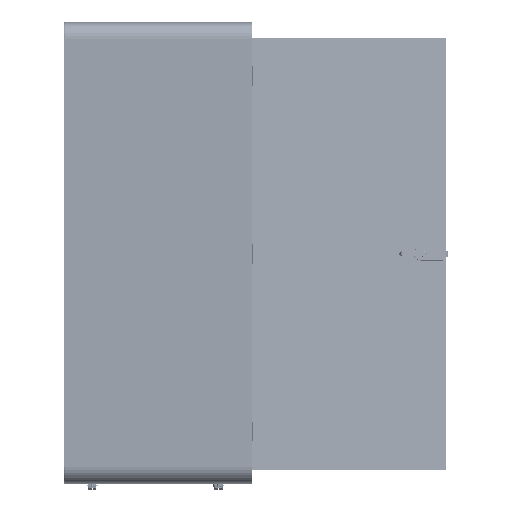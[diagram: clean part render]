
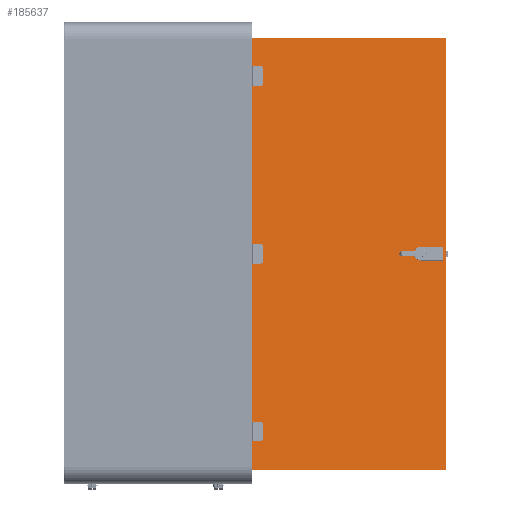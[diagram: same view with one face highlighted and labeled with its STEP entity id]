
A CAD part, left-side view. The second image highlights one B-rep face of the part: STEP entity #185637.
In plain terms, the highlighted planar face has unit normal (-0.985, -0.174, 0) as drawn and (0, 0, -1) by its records, which use the part's own axes.
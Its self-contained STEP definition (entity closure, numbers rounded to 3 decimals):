
#7068=FACE_BOUND('',#33418,.T.);
#7069=FACE_BOUND('',#33419,.T.);
#7070=FACE_BOUND('',#33420,.T.);
#7071=FACE_BOUND('',#33421,.T.);
#7072=FACE_BOUND('',#33422,.T.);
#7073=FACE_BOUND('',#33423,.T.);
#7074=FACE_BOUND('',#33424,.T.);
#7075=FACE_BOUND('',#33425,.T.);
#11572=PLANE('',#204866);
#21419=FACE_OUTER_BOUND('',#33417,.T.);
#33417=EDGE_LOOP('',(#159732,#159733,#159734,#159735));
#33418=EDGE_LOOP('',(#159736));
#33419=EDGE_LOOP('',(#159737));
#33420=EDGE_LOOP('',(#159738));
#33421=EDGE_LOOP('',(#159739));
#33422=EDGE_LOOP('',(#159740));
#33423=EDGE_LOOP('',(#159741));
#33424=EDGE_LOOP('',(#159742));
#33425=EDGE_LOOP('',(#159743));
#48653=LINE('',#322137,#65348);
#49607=LINE('',#332711,#66302);
#49610=LINE('',#332717,#66305);
#49611=LINE('',#332718,#66306);
#65348=VECTOR('',#246231,1000.);
#66302=VECTOR('',#247931,1000.);
#66305=VECTOR('',#247936,1000.);
#66306=VECTOR('',#247937,1000.);
#76035=CIRCLE('',#204494,9.25);
#76037=CIRCLE('',#204497,9.25);
#76039=CIRCLE('',#204500,9.25);
#76041=CIRCLE('',#204503,9.25);
#76043=CIRCLE('',#204506,9.25);
#76045=CIRCLE('',#204509,9.25);
#76047=CIRCLE('',#204867,22.5);
#76048=CIRCLE('',#204868,22.5);
#89267=VERTEX_POINT('',#322134);
#89268=VERTEX_POINT('',#322136);
#89269=VERTEX_POINT('',#322140);
#89271=VERTEX_POINT('',#322146);
#89273=VERTEX_POINT('',#322152);
#89275=VERTEX_POINT('',#322158);
#89277=VERTEX_POINT('',#322164);
#89279=VERTEX_POINT('',#322170);
#90061=VERTEX_POINT('',#332710);
#90063=VERTEX_POINT('',#332716);
#90064=VERTEX_POINT('',#332719);
#90065=VERTEX_POINT('',#332721);
#112949=EDGE_CURVE('',#89268,#89267,#48653,.T.);
#112951=EDGE_CURVE('',#89269,#89269,#76035,.T.);
#112954=EDGE_CURVE('',#89271,#89271,#76037,.T.);
#112957=EDGE_CURVE('',#89273,#89273,#76039,.T.);
#112960=EDGE_CURVE('',#89275,#89275,#76041,.T.);
#112963=EDGE_CURVE('',#89277,#89277,#76043,.T.);
#112966=EDGE_CURVE('',#89279,#89279,#76045,.T.);
#114139=EDGE_CURVE('',#90061,#89268,#49607,.T.);
#114142=EDGE_CURVE('',#90063,#89267,#49610,.T.);
#114143=EDGE_CURVE('',#90061,#90063,#49611,.T.);
#114144=EDGE_CURVE('',#90064,#90064,#76047,.T.);
#114145=EDGE_CURVE('',#90065,#90065,#76048,.T.);
#159732=ORIENTED_EDGE('',*,*,#114142,.F.);
#159733=ORIENTED_EDGE('',*,*,#114143,.F.);
#159734=ORIENTED_EDGE('',*,*,#114139,.T.);
#159735=ORIENTED_EDGE('',*,*,#112949,.T.);
#159736=ORIENTED_EDGE('',*,*,#112966,.T.);
#159737=ORIENTED_EDGE('',*,*,#112963,.T.);
#159738=ORIENTED_EDGE('',*,*,#112960,.T.);
#159739=ORIENTED_EDGE('',*,*,#112957,.T.);
#159740=ORIENTED_EDGE('',*,*,#112954,.T.);
#159741=ORIENTED_EDGE('',*,*,#112951,.T.);
#159742=ORIENTED_EDGE('',*,*,#114144,.T.);
#159743=ORIENTED_EDGE('',*,*,#114145,.T.);
#185637=ADVANCED_FACE('',(#21419,#7068,#7069,#7070,#7071,#7072,#7073,#7074,
#7075),#11572,.T.);
#204494=AXIS2_PLACEMENT_3D('',#322141,#246235,#246236);
#204497=AXIS2_PLACEMENT_3D('',#322147,#246242,#246243);
#204500=AXIS2_PLACEMENT_3D('',#322153,#246249,#246250);
#204503=AXIS2_PLACEMENT_3D('',#322159,#246256,#246257);
#204506=AXIS2_PLACEMENT_3D('',#322165,#246263,#246264);
#204509=AXIS2_PLACEMENT_3D('',#322171,#246270,#246271);
#204866=AXIS2_PLACEMENT_3D('',#332715,#247934,#247935);
#204867=AXIS2_PLACEMENT_3D('',#332720,#247938,#247939);
#204868=AXIS2_PLACEMENT_3D('',#332722,#247940,#247941);
#246231=DIRECTION('',(0.,-1.,0.));
#246235=DIRECTION('center_axis',(0.,0.,
1.));
#246236=DIRECTION('ref_axis',(-1.,0.,0.));
#246242=DIRECTION('center_axis',(0.,0.,
1.));
#246243=DIRECTION('ref_axis',(-1.,0.,0.));
#246249=DIRECTION('center_axis',(0.,0.,
1.));
#246250=DIRECTION('ref_axis',(-1.,0.,0.));
#246256=DIRECTION('center_axis',(0.,0.,
1.));
#246257=DIRECTION('ref_axis',(-1.,0.,0.));
#246263=DIRECTION('center_axis',(0.,0.,
1.));
#246264=DIRECTION('ref_axis',(-1.,0.,0.));
#246270=DIRECTION('center_axis',(0.,0.,
1.));
#246271=DIRECTION('ref_axis',(-1.,0.,0.));
#247931=DIRECTION('',(1.,0.,0.));
#247934=DIRECTION('center_axis',(0.,0.,
-1.));
#247935=DIRECTION('ref_axis',(-1.,0.,0.));
#247936=DIRECTION('',(1.,0.,0.));
#247937=DIRECTION('',(0.,-1.,0.));
#247938=DIRECTION('center_axis',(0.,0.,
1.));
#247939=DIRECTION('ref_axis',(-1.,0.,0.));
#247940=DIRECTION('center_axis',(0.,0.,
1.));
#247941=DIRECTION('ref_axis',(-1.,0.,0.));
#322134=CARTESIAN_POINT('',(929.03,-439.262,1334.9));
#322136=CARTESIAN_POINT('',(929.03,1627.738,1334.9));
#322137=CARTESIAN_POINT('',(929.03,1627.738,1334.9));
#322140=CARTESIAN_POINT('',(886.78,1468.238,1334.9));
#322141=CARTESIAN_POINT('Origin',(896.03,1468.238,1334.9));
#322146=CARTESIAN_POINT('',(886.78,-279.762,1334.9));
#322147=CARTESIAN_POINT('Origin',(896.03,-279.762,1334.9));
#322152=CARTESIAN_POINT('',(886.78,-234.762,1334.9));
#322153=CARTESIAN_POINT('Origin',(896.03,-234.762,1334.9));
#322158=CARTESIAN_POINT('',(886.78,571.738,1334.9));
#322159=CARTESIAN_POINT('Origin',(896.03,571.738,1334.9));
#322164=CARTESIAN_POINT('',(886.78,616.738,1334.9));
#322165=CARTESIAN_POINT('Origin',(896.03,616.738,1334.9));
#322170=CARTESIAN_POINT('',(886.78,1423.238,1334.9));
#322171=CARTESIAN_POINT('Origin',(896.03,1423.238,1334.9));
#332710=CARTESIAN_POINT('',(-24.97,1627.738,1334.9));
#332711=CARTESIAN_POINT('',(65.03,1627.738,1334.9));
#332715=CARTESIAN_POINT('Origin',(-24.97,1627.738,1334.9));
#332716=CARTESIAN_POINT('',(-24.97,-439.262,1334.9));
#332717=CARTESIAN_POINT('',(65.03,-439.262,1334.9));
#332718=CARTESIAN_POINT('',(-24.97,1627.738,1334.9));
#332719=CARTESIAN_POINT('',(12.53,594.238,1334.9));
#332720=CARTESIAN_POINT('Origin',(35.03,594.238,1334.9));
#332721=CARTESIAN_POINT('',(73.53,594.238,1334.9));
#332722=CARTESIAN_POINT('Origin',(96.03,594.238,1334.9));
